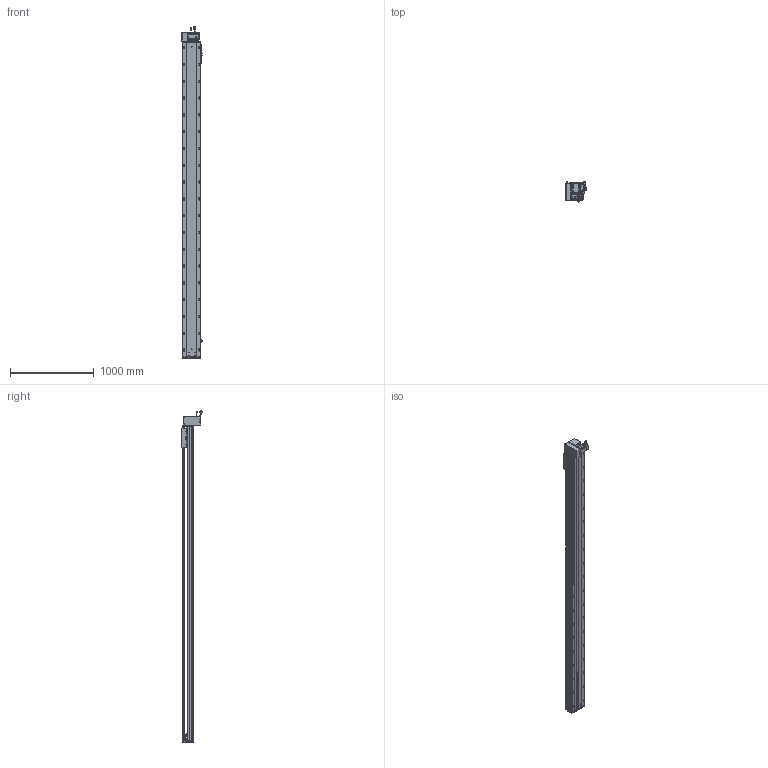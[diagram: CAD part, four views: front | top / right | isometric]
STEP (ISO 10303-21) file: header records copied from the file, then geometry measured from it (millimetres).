
FILE_DESCRIPTION (( 'STEP AP203' ), '1' );
FILE_NAME ('RY220-T-300-DL.SLDASM_3400.step', '2022-07-25T07:56:04', ( '' ), ( '' ), 'SwSTEP 2.0', 'SolidWorks 2016', '' );
FILE_SCHEMA (( 'CONFIG_CONTROL_DESIGN' ));
Length unit declared in the file: millimetre
Products named in the file (14): RY220-T-蛌殏萇儂假蚾啣(750W); 110A-T-肮祭謫釱傷裔; RY220翋肮祭謫釱; 覜茼ん672; 滅袉蝶18-15; 怢湛750W_ECMA-CX0807ES; RY220圉猾敕々湍臏賑輸; RY220-T-湍謫欶(鍼踢); RY220翋肮祭謫裔啣; RY220-俋离672覜茼んえ; RY220-T-300-奻裔啣_3400; RY220-T-300-DL.SLDASM_3400; RY220-T菁釱-300_3400; RY220-同步轮副支撑座6304×2
Assembly tree (18 placements, depth 2):
  RY220-T-300-DL.SLDASM_3400
    RY220-T菁釱-300_3400
    RY220翋肮祭謫釱
    覜茼ん672  x3
    RY220圉猾敕々湍臏賑輸
    RY220-T-300-奻裔啣_3400
    RY220-俋离672覜茼んえ
    滅袉蝶18-15  x3
    RY220翋肮祭謫裔啣  x2
    110A-T-肮祭謫釱傷裔
    怢湛750W_ECMA-CX0807ES
    RY220-T-湍謫欶(鍼踢)
    RY220-T-蛌殏萇儂假蚾啣(750W)
    RY220-同步轮副支撑座6304×2
Bounding box: 239.7 x 240.74 x 3953.27 mm (x, y, z)
Volume: 27793636.3 mm3; surface area: 8642703.3 mm2
Topology: 19 solids, 19 shells, 3112 faces, 8611 edges, 5374 vertices
Faces by surface type: cylinder 1552, plane 1069, cone 409, bspline 56, sphere 16, torus 10
Entity records: 103763 total; most frequent: CARTESIAN_POINT 29165, ORIENTED_EDGE 15386, DIRECTION 14940, EDGE_CURVE 7693, AXIS2_PLACEMENT_3D 5418, VERTEX_POINT 4998, LINE 4104, VECTOR 4104
